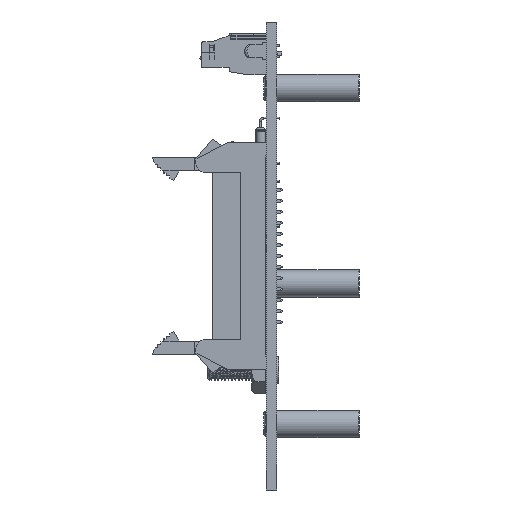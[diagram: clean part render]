
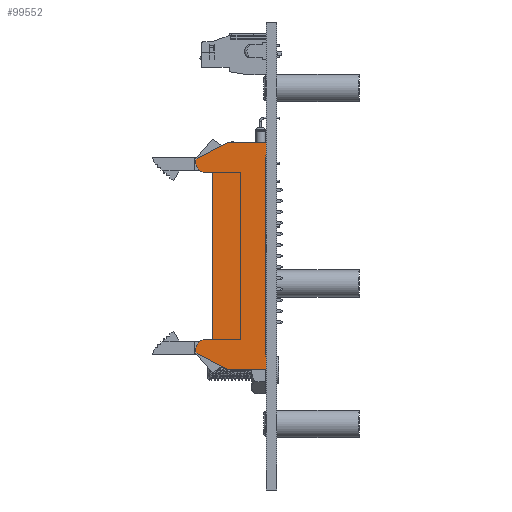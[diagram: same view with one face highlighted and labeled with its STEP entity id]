
A CAD part, left-side view. The second image highlights one B-rep face of the part: STEP entity #99552.
In plain terms, the highlighted planar face has unit normal (-1, 0, 0).
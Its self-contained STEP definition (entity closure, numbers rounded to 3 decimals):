
#2377 = LINE ( 'NONE', #112442, #134772 ) ;
#4105 = EDGE_CURVE ( 'NONE', #77930, #48548, #20246, .T. ) ;
#7398 = LINE ( 'NONE', #110672, #143820 ) ;
#9169 = EDGE_CURVE ( 'NONE', #9506, #42260, #169875, .T. ) ;
#9506 = VERTEX_POINT ( 'NONE', #24165 ) ;
#10948 = EDGE_CURVE ( 'NONE', #48548, #44398, #117030, .T. ) ;
#11669 = CARTESIAN_POINT ( 'NONE',  ( -214.884, 15.405, 11.43 ) ) ;
#11688 = CARTESIAN_POINT ( 'NONE',  ( -214.884, 1.372, 11.024 ) ) ;
#15595 = ORIENTED_EDGE ( 'NONE', *, *, #10948, .F. ) ;
#16103 = VECTOR ( 'NONE', #140686, 1000. ) ;
#16808 = ORIENTED_EDGE ( 'NONE', *, *, #41815, .F. ) ;
#17327 = CARTESIAN_POINT ( 'NONE',  ( -214.884, 10.059, 16.256 ) ) ;
#17606 = DIRECTION ( 'NONE',  ( 0., -1., 0. ) ) ;
#17968 = CARTESIAN_POINT ( 'NONE',  ( -214.884, 1.181, -36.068 ) ) ;
#20246 = LINE ( 'NONE', #153939, #16103 ) ;
#21046 = ORIENTED_EDGE ( 'NONE', *, *, #9169, .F. ) ;
#21363 = ORIENTED_EDGE ( 'NONE', *, *, #80822, .F. ) ;
#21601 = CARTESIAN_POINT ( 'NONE',  ( -214.884, 10.059, -36.068 ) ) ;
#23145 = VERTEX_POINT ( 'NONE', #37672 ) ;
#24165 = CARTESIAN_POINT ( 'NONE',  ( -214.884, 13.627, -29.21 ) ) ;
#24947 = DIRECTION ( 'NONE',  ( 0., 0., -1. ) ) ;
#25612 = EDGE_CURVE ( 'NONE', #48649, #57415, #101970, .T. ) ;
#27667 = CARTESIAN_POINT ( 'NONE',  ( -214.884, 17.437, 12.497 ) ) ;
#28579 = ORIENTED_EDGE ( 'NONE', *, *, #143400, .F. ) ;
#30089 = DIRECTION ( 'NONE',  ( 0., 1., 0. ) ) ;
#30624 = ORIENTED_EDGE ( 'NONE', *, *, #25612, .F. ) ;
#31599 = VECTOR ( 'NONE', #30089, 1000. ) ;
#31728 = AXIS2_PLACEMENT_3D ( 'NONE', #61242, #153724, #74540 ) ;
#33206 = DIRECTION ( 'NONE',  ( 0., -1., 0. ) ) ;
#34499 = ORIENTED_EDGE ( 'NONE', *, *, #78852, .F. ) ;
#34880 = DIRECTION ( 'NONE',  ( 0., 0.891, 0.454 ) ) ;
#37672 = CARTESIAN_POINT ( 'NONE',  ( -214.884, 1.181, 16.256 ) ) ;
#40667 = VECTOR ( 'NONE', #76146, 1000. ) ;
#41815 = EDGE_CURVE ( 'NONE', #113890, #152469, #110009, .T. ) ;
#42260 = VERTEX_POINT ( 'NONE', #112225 ) ;
#44398 = VERTEX_POINT ( 'NONE', #96506 ) ;
#46957 = ORIENTED_EDGE ( 'NONE', *, *, #158803, .F. ) ;
#48548 = VERTEX_POINT ( 'NONE', #92181 ) ;
#48649 = VERTEX_POINT ( 'NONE', #81763 ) ;
#49437 = EDGE_CURVE ( 'NONE', #165633, #156382, #75838, .T. ) ;
#49506 = CARTESIAN_POINT ( 'NONE',  ( -214.884, 13.627, 9.398 ) ) ;
#51431 = ORIENTED_EDGE ( 'NONE', *, *, #80885, .F. ) ;
#51574 = ORIENTED_EDGE ( 'NONE', *, *, #60364, .F. ) ;
#53536 = DIRECTION ( 'NONE',  ( 0., 0.036, -0.999 ) ) ;
#53900 = ORIENTED_EDGE ( 'NONE', *, *, #49437, .F. ) ;
#55816 = CARTESIAN_POINT ( 'NONE',  ( -214.884, 15.405, -31.242 ) ) ;
#57093 = EDGE_CURVE ( 'NONE', #23145, #165633, #141536, .T. ) ;
#57415 = VERTEX_POINT ( 'NONE', #87554 ) ;
#60270 = VECTOR ( 'NONE', #34880, 1000. ) ;
#60364 = EDGE_CURVE ( 'NONE', #156382, #48649, #132241, .T. ) ;
#61242 = CARTESIAN_POINT ( 'NONE',  ( -214.884, 15.405, -31.242 ) ) ;
#61890 = VECTOR ( 'NONE', #161976, 1000. ) ;
#65480 = VECTOR ( 'NONE', #118276, 1000. ) ;
#68563 = LINE ( 'NONE', #21601, #60270 ) ;
#69131 = DIRECTION ( 'NONE',  ( 0., 0., -1. ) ) ;
#69836 = EDGE_CURVE ( 'NONE', #44398, #9506, #7398, .T. ) ;
#72804 = VECTOR ( 'NONE', #116647, 1000. ) ;
#74540 = DIRECTION ( 'NONE',  ( 0., 0., -1. ) ) ;
#75838 = LINE ( 'NONE', #115632, #40667 ) ;
#76146 = DIRECTION ( 'NONE',  ( 0., 0., -1. ) ) ;
#77930 = VERTEX_POINT ( 'NONE', #94915 ) ;
#78852 = EDGE_CURVE ( 'NONE', #130895, #150311, #170917, .T. ) ;
#80822 = EDGE_CURVE ( 'NONE', #150311, #23145, #2377, .T. ) ;
#80885 = EDGE_CURVE ( 'NONE', #57415, #77930, #68563, .T. ) ;
#81763 = CARTESIAN_POINT ( 'NONE',  ( -214.884, 1.181, -36.068 ) ) ;
#81845 = PLANE ( 'NONE',  #113941 ) ;
#87554 = CARTESIAN_POINT ( 'NONE',  ( -214.884, 10.059, -36.068 ) ) ;
#89237 = LINE ( 'NONE', #156962, #159527 ) ;
#92181 = CARTESIAN_POINT ( 'NONE',  ( -214.884, 17.437, -31.242 ) ) ;
#92356 = CARTESIAN_POINT ( 'NONE',  ( -214.884, 15.405, 9.398 ) ) ;
#94915 = CARTESIAN_POINT ( 'NONE',  ( -214.884, 17.437, -32.309 ) ) ;
#96506 = CARTESIAN_POINT ( 'NONE',  ( -214.884, 15.405, -29.21 ) ) ;
#99552 = ADVANCED_FACE ( 'NONE', ( #165155 ), #81845, .F. ) ;
#101970 = LINE ( 'NONE', #17968, #31599 ) ;
#104230 = DIRECTION ( 'NONE',  ( 1., 0., 0. ) ) ;
#104427 = CARTESIAN_POINT ( 'NONE',  ( -214.884, 17.437, 12.497 ) ) ;
#104653 = CARTESIAN_POINT ( 'NONE',  ( -214.884, 1.372, -30.836 ) ) ;
#107973 = LINE ( 'NONE', #49506, #72804 ) ;
#110009 = CIRCLE ( 'NONE', #112957, 2.032 ) ;
#110044 = CARTESIAN_POINT ( 'NONE',  ( -214.884, 1.372, -30.836 ) ) ;
#110672 = CARTESIAN_POINT ( 'NONE',  ( -214.884, 15.405, -29.21 ) ) ;
#112225 = CARTESIAN_POINT ( 'NONE',  ( -214.884, 13.627, 9.398 ) ) ;
#112442 = CARTESIAN_POINT ( 'NONE',  ( -214.884, 10.059, 16.256 ) ) ;
#112957 = AXIS2_PLACEMENT_3D ( 'NONE', #11669, #104230, #24947 ) ;
#113890 = VERTEX_POINT ( 'NONE', #92356 ) ;
#113941 = AXIS2_PLACEMENT_3D ( 'NONE', #55816, #148289, #69131 ) ;
#115632 = CARTESIAN_POINT ( 'NONE',  ( -214.884, 1.372, 11.024 ) ) ;
#116647 = DIRECTION ( 'NONE',  ( 0., 1., 0. ) ) ;
#117030 = CIRCLE ( 'NONE', #31728, 2.032 ) ;
#118276 = DIRECTION ( 'NONE',  ( 0., -0.891, 0.454 ) ) ;
#119516 = CARTESIAN_POINT ( 'NONE',  ( -214.884, 1.181, 16.256 ) ) ;
#119780 = CARTESIAN_POINT ( 'NONE',  ( -214.884, 13.627, -29.21 ) ) ;
#130895 = VERTEX_POINT ( 'NONE', #27667 ) ;
#132241 = LINE ( 'NONE', #110044, #61890 ) ;
#134772 = VECTOR ( 'NONE', #33206, 1000. ) ;
#137445 = VECTOR ( 'NONE', #53536, 1000. ) ;
#137869 = CARTESIAN_POINT ( 'NONE',  ( -214.884, 17.437, 11.43 ) ) ;
#138827 = ORIENTED_EDGE ( 'NONE', *, *, #4105, .F. ) ;
#140686 = DIRECTION ( 'NONE',  ( 0., 0., 1. ) ) ;
#141536 = LINE ( 'NONE', #119516, #137445 ) ;
#143394 = DIRECTION ( 'NONE',  ( 0., 0., 1. ) ) ;
#143400 = EDGE_CURVE ( 'NONE', #152469, #130895, #89237, .T. ) ;
#143820 = VECTOR ( 'NONE', #17606, 1000. ) ;
#148289 = DIRECTION ( 'NONE',  ( 1., 0., 0. ) ) ;
#150311 = VERTEX_POINT ( 'NONE', #17327 ) ;
#152469 = VERTEX_POINT ( 'NONE', #137869 ) ;
#153199 = EDGE_LOOP ( 'NONE', ( #53900, #169548, #21363, #34499, #28579, #16808, #46957, #21046, #166586, #15595, #138827, #51431, #30624, #51574 ) ) ;
#153724 = DIRECTION ( 'NONE',  ( 1., 0., 0. ) ) ;
#153939 = CARTESIAN_POINT ( 'NONE',  ( -214.884, 17.437, -31.242 ) ) ;
#156382 = VERTEX_POINT ( 'NONE', #104653 ) ;
#156402 = DIRECTION ( 'NONE',  ( 0., 0., 1. ) ) ;
#156962 = CARTESIAN_POINT ( 'NONE',  ( -214.884, 17.437, 11.43 ) ) ;
#158803 = EDGE_CURVE ( 'NONE', #42260, #113890, #107973, .T. ) ;
#159527 = VECTOR ( 'NONE', #156402, 1000. ) ;
#161976 = DIRECTION ( 'NONE',  ( 0., -0.036, -0.999 ) ) ;
#165155 = FACE_OUTER_BOUND ( 'NONE', #153199, .T. ) ;
#165633 = VERTEX_POINT ( 'NONE', #11688 ) ;
#165788 = VECTOR ( 'NONE', #143394, 1000. ) ;
#166586 = ORIENTED_EDGE ( 'NONE', *, *, #69836, .F. ) ;
#169548 = ORIENTED_EDGE ( 'NONE', *, *, #57093, .F. ) ;
#169875 = LINE ( 'NONE', #119780, #165788 ) ;
#170917 = LINE ( 'NONE', #104427, #65480 ) ;
